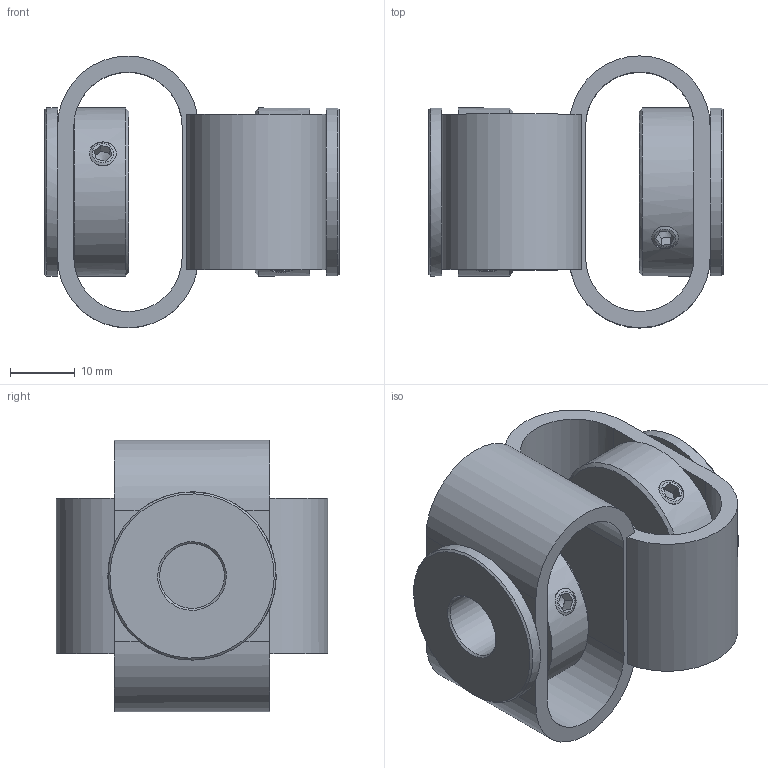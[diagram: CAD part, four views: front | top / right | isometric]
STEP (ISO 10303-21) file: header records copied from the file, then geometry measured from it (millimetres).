
FILE_DESCRIPTION(/* description */ (''),/* implementation_level */ '2;1');
FILE_NAME(/* name */ 'E:\ABP_bauteile\Doppelschlaufenkupplung\DKPS_4848\Doppelschlaufenkupplung_DKPS_4848_95_10.stp',/* time_stamp */ '2015-03-13T14:09:51+01:00',/* author */ ('Rob'),/* organization */ (''),/* preprocessor_version */ 'ST-DEVELOPER v15.6',/* originating_system */ 'Autodesk Inventor 2015',/* authorisation */ '');
FILE_SCHEMA (('CONFIG_CONTROL_DESIGN'));
Length unit declared in the file: millimetre
Products named in the file (1): Bauteil30
Bounding box: 45.55 x 42.03 x 42.03 mm (x, y, z)
Volume: 19768.2 mm3; surface area: 13433.1 mm2
Topology: 1 solids, 2 shells, 134 faces, 311 edges, 188 vertices
Faces by surface type: plane 83, cylinder 27, cone 24
Full cylindrical faces by diameter (mm): 4.134 x8, 9.52 x1, 10 x1, 16.5 x2, 18 x3, 26 x4
Entity records: 3580 total; most frequent: CARTESIAN_POINT 849, DIRECTION 588, ORIENTED_EDGE 470, EDGE_CURVE 235, AXIS2_PLACEMENT_3D 234, EDGE_LOOP 198, VERTEX_POINT 155, FACE_OUTER_BOUND 134
